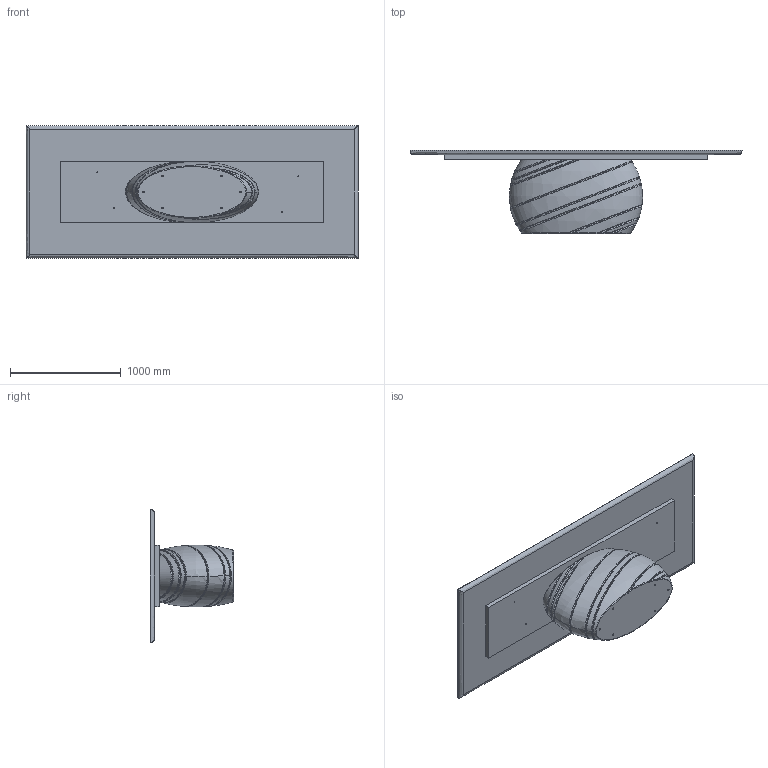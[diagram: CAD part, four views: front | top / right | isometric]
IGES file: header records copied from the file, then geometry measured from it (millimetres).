
Start section: SolidWorks IGES file using analytic representation for surfaces
Global section: file name: Y:\eforma\TECNICO\SOLIDWORKS\E-FORMA\1-TAVOLI\GIOVE\08 modelli 3D web\GI24W.IGS; native system: SolidWorks 2022; preprocessor: SolidWorks 2022; author: eforma.tech; date: 250422.162143; units: millimetre
Bounding box: 3000 x 750 x 1200 mm (x, y, z)
Volume: 504291511.3 mm3; surface area: 13053188.5 mm2
Topology: 3 solids, 3 shells, 152 faces, 365 edges, 234 vertices
Faces by surface type: revolution 64, bspline 53, plane 35
